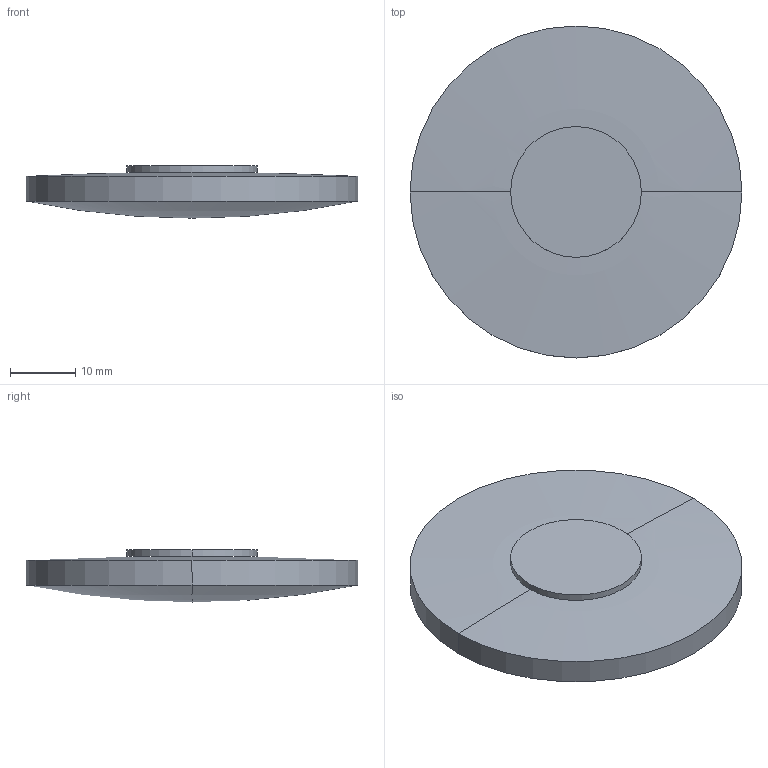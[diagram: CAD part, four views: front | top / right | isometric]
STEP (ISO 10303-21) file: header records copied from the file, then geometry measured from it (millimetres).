
FILE_DESCRIPTION(('STEP AP214'),'1');
FILE_NAME('LLR-51240.STEP','2020-03-09T17:42:03',(' '),(' '),'Spatial InterOp 3D',' ',' ');
FILE_SCHEMA(('AUTOMOTIVE_DESIGN { 1 0 10303 214 1 1 1 1 }'));
Length unit declared in the file: millimetre
Products named in the file (1): 1
Bounding box: 50.8 x 50.8 x 8 mm (x, y, z)
Volume: 11244.6 mm3; surface area: 5370.1 mm2
Topology: 2 solids, 2 shells, 10 faces, 20 edges, 10 vertices
Faces by surface type: sphere 4, cylinder 4, plane 2
Entity records: 255 total; most frequent: DIRECTION 52, CARTESIAN_POINT 38, ORIENTED_EDGE 32, AXIS2_PLACEMENT_3D 24, EDGE_CURVE 16, CIRCLE 12, ADVANCED_FACE 10, FACE_OUTER_BOUND 10
